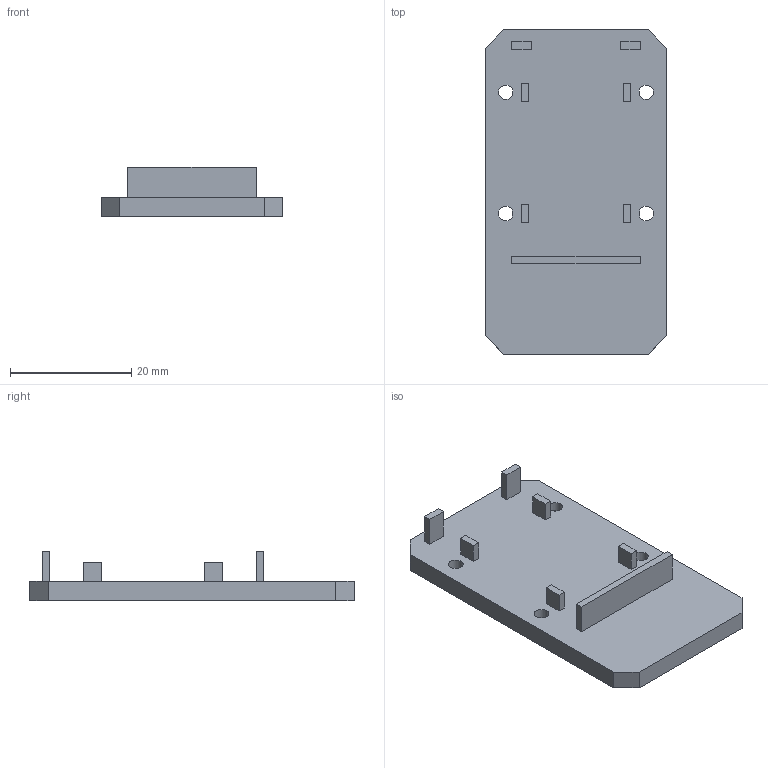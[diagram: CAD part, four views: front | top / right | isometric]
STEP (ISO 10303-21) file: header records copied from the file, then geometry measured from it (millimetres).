
FILE_DESCRIPTION(('Open CASCADE Model'),'2;1');
FILE_NAME('Open CASCADE Shape Model','2026-11-18T20:35:56',('Author'),( 'Open CASCADE'),'Open CASCADE STEP processor 7.9','Open CASCADE 7.9' ,'Unknown');
FILE_SCHEMA(('AUTOMOTIVE_DESIGN { 1 0 10303 214 1 1 1 1 }'));
Length unit declared in the file: millimetre
Products named in the file (1): Open CASCADE STEP translator 7.9 2
Bounding box: 30 x 53.5 x 8.2 mm (x, y, z)
Volume: 5181 mm3; surface area: 4197.7 mm2
Topology: 1 solids, 1 shells, 57 faces, 132 edges, 88 vertices
Faces by surface type: plane 49, cylinder 8
Full cylindrical faces by diameter (mm): 2.4 x4, 4 x4
Entity records: 3344 total; most frequent: CARTESIAN_POINT 614, DIRECTION 496, LINE 340, VECTOR 340, ORIENTED_EDGE 264, PCURVE 264, DEFINITIONAL_REPRESENTATION 264, EDGE_CURVE 132
